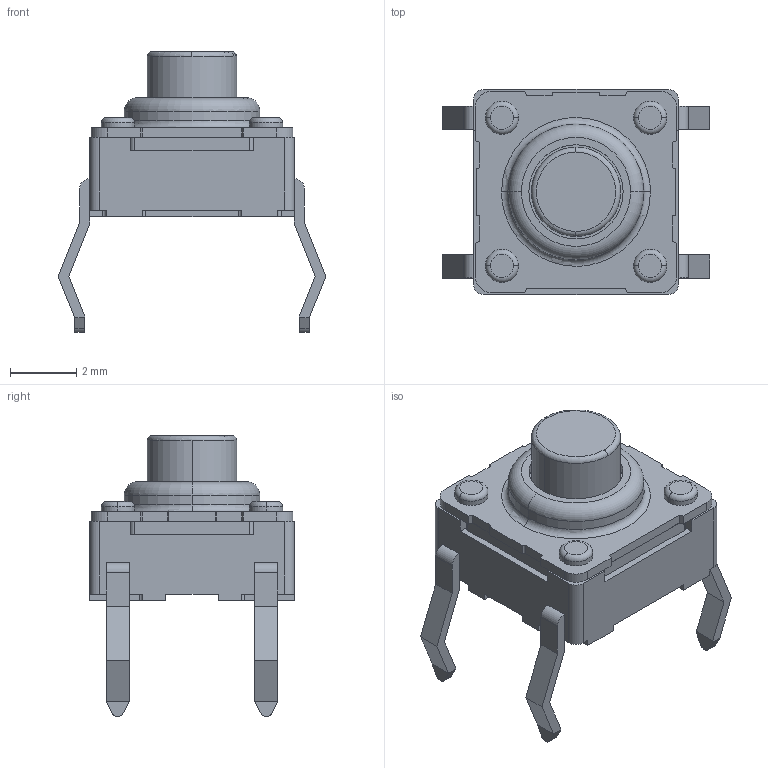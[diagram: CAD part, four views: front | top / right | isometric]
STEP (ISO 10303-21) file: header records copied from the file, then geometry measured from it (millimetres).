
FILE_DESCRIPTION (( 'STEP AP214' ), '1' );
FILE_NAME ('SKHWAQ.STEP', '2012-09-25T03:53:25', ( ' ' ), ( '' ), 'SwSTEP 2.0', 'SolidWorks 2010', '' );
FILE_SCHEMA (( 'AUTOMOTIVE_DESIGN' ));
Length unit declared in the file: millimetre
Products named in the file (1): SKHWAQ
Bounding box: 8.1 x 6.2 x 8.5 mm (x, y, z)
Volume: 121 mm3; surface area: 209.8 mm2
Topology: 1 solids, 1 shells, 209 faces, 568 edges, 368 vertices
Faces by surface type: plane 141, cylinder 54, torus 14
Entity records: 9161 total; most frequent: CARTESIAN_POINT 1456, ORIENTED_EDGE 1136, DIRECTION 1110, EDGE_CURVE 568, VECTOR 426, LINE 426, VERTEX_POINT 368, AXIS2_PLACEMENT_3D 342
